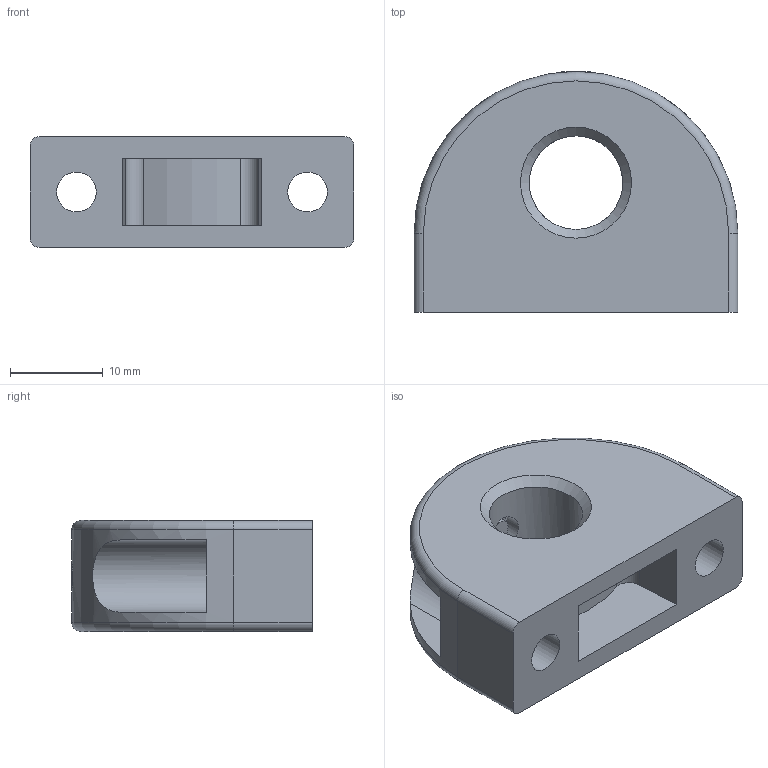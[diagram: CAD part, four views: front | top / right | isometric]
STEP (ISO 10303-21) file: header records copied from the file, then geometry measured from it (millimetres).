
FILE_DESCRIPTION( ( 'STEP AP203' ), '1' );
FILE_NAME( 'C:/Temp/Ganter_Step_05_03_2020/data/3_1/gn412_1/Mounting block GN 412.1-35-M12-1.stp', '2020-03-12T08:30:52', ( 'License CC BY-ND 4.0' ), ( 'CADENAS' ), ' ', 'PARTsolutions', ' ' );
FILE_SCHEMA( ( 'CONFIG_CONTROL_DESIGN' ) );
Length unit declared in the file: millimetre
Products named in the file (1): _Mounting block GN 412.1-35-M12-1
Bounding box: 35 x 26 x 12 mm (x, y, z)
Volume: 5856.5 mm3; surface area: 3964.3 mm2
Topology: 1 solids, 1 shells, 50 faces, 115 edges, 73 vertices
Faces by surface type: plane 27, cylinder 17, cone 4, torus 2
Full cylindrical faces by diameter (mm): 2.5 x1, 4 x2, 4.3 x2, 7.8 x2, 10.106 x1, 12.2 x1
Entity records: 1560 total; most frequent: CARTESIAN_POINT 407, DIRECTION 238, ORIENTED_EDGE 200, EDGE_CURVE 100, AXIS2_PLACEMENT_3D 92, EDGE_LOOP 75, VERTEX_POINT 71, FACE_OUTER_BOUND 59
